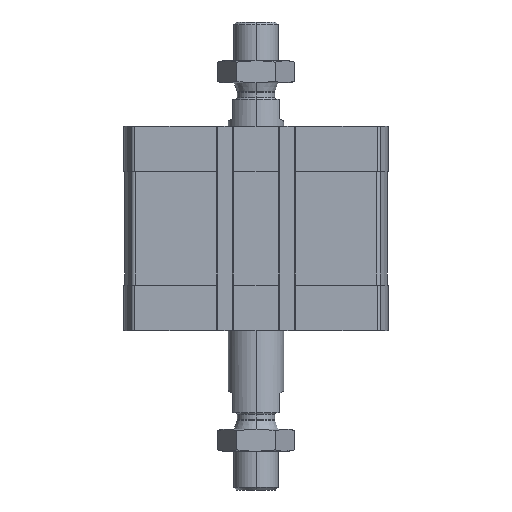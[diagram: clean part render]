
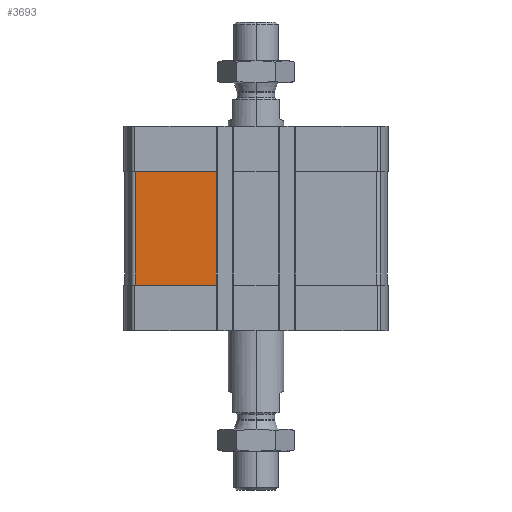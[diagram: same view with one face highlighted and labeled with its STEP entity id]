
A CAD part, left-side view. The second image highlights one B-rep face of the part: STEP entity #3693.
In plain terms, the highlighted planar face has unit normal (-1, 0, 0).
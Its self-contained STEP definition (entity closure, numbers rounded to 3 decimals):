
#537 = LINE ( 'NONE', #2061, #6123 ) ;
#977 = DIRECTION ( 'NONE',  ( 0., -1., 0. ) ) ;
#1517 = DIRECTION ( 'NONE',  ( 0., -1., 0. ) ) ;
#1828 = EDGE_CURVE ( 'NONE', #8461, #11479, #11686, .T. ) ;
#2061 = CARTESIAN_POINT ( 'NONE',  ( -47.5, 14.3, -57.5 ) ) ;
#2773 = LINE ( 'NONE', #14027, #14775 ) ;
#3334 = CARTESIAN_POINT ( 'NONE',  ( -47.5, 43.743, -16.5 ) ) ;
#3693 = ADVANCED_FACE ( 'NONE', ( #9756 ), #4362, .T. ) ;
#4165 = VERTEX_POINT ( 'NONE', #10367 ) ;
#4362 = PLANE ( 'NONE',  #12319 ) ;
#4851 = ORIENTED_EDGE ( 'NONE', *, *, #9864, .T. ) ;
#5947 = EDGE_CURVE ( 'NONE', #4165, #8461, #14644, .T. ) ;
#6123 = VECTOR ( 'NONE', #10085, 1000. ) ;
#6286 = DIRECTION ( 'NONE',  ( 0., 0., 1. ) ) ;
#6468 = ORIENTED_EDGE ( 'NONE', *, *, #5947, .F. ) ;
#7996 = CARTESIAN_POINT ( 'NONE',  ( -47.5, 14.3, -57.5 ) ) ;
#8461 = VERTEX_POINT ( 'NONE', #3334 ) ;
#9342 = EDGE_LOOP ( 'NONE', ( #14809, #6468, #4851, #15811 ) ) ;
#9756 = FACE_OUTER_BOUND ( 'NONE', #9342, .T. ) ;
#9853 = CARTESIAN_POINT ( 'NONE',  ( -47.5, 43.743, -57.5 ) ) ;
#9864 = EDGE_CURVE ( 'NONE', #4165, #17428, #2773, .T. ) ;
#10085 = DIRECTION ( 'NONE',  ( 0., 0., 1. ) ) ;
#10332 = CARTESIAN_POINT ( 'NONE',  ( -47.5, 43.743, -57.5 ) ) ;
#10367 = CARTESIAN_POINT ( 'NONE',  ( -47.5, 43.743, -57.5 ) ) ;
#11295 = DIRECTION ( 'NONE',  ( -1., 0., 0. ) ) ;
#11479 = VERTEX_POINT ( 'NONE', #15987 ) ;
#11686 = LINE ( 'NONE', #15934, #17036 ) ;
#12319 = AXIS2_PLACEMENT_3D ( 'NONE', #9853, #11295, #15340 ) ;
#12393 = VECTOR ( 'NONE', #6286, 1000. ) ;
#12607 = EDGE_CURVE ( 'NONE', #17428, #11479, #537, .T. ) ;
#14027 = CARTESIAN_POINT ( 'NONE',  ( -47.5, 43.743, -57.5 ) ) ;
#14644 = LINE ( 'NONE', #10332, #12393 ) ;
#14775 = VECTOR ( 'NONE', #1517, 1000. ) ;
#14809 = ORIENTED_EDGE ( 'NONE', *, *, #1828, .F. ) ;
#15340 = DIRECTION ( 'NONE',  ( 0., 0., 1. ) ) ;
#15811 = ORIENTED_EDGE ( 'NONE', *, *, #12607, .T. ) ;
#15934 = CARTESIAN_POINT ( 'NONE',  ( -47.5, 43.743, -16.5 ) ) ;
#15987 = CARTESIAN_POINT ( 'NONE',  ( -47.5, 14.3, -16.5 ) ) ;
#17036 = VECTOR ( 'NONE', #977, 1000. ) ;
#17428 = VERTEX_POINT ( 'NONE', #7996 ) ;
